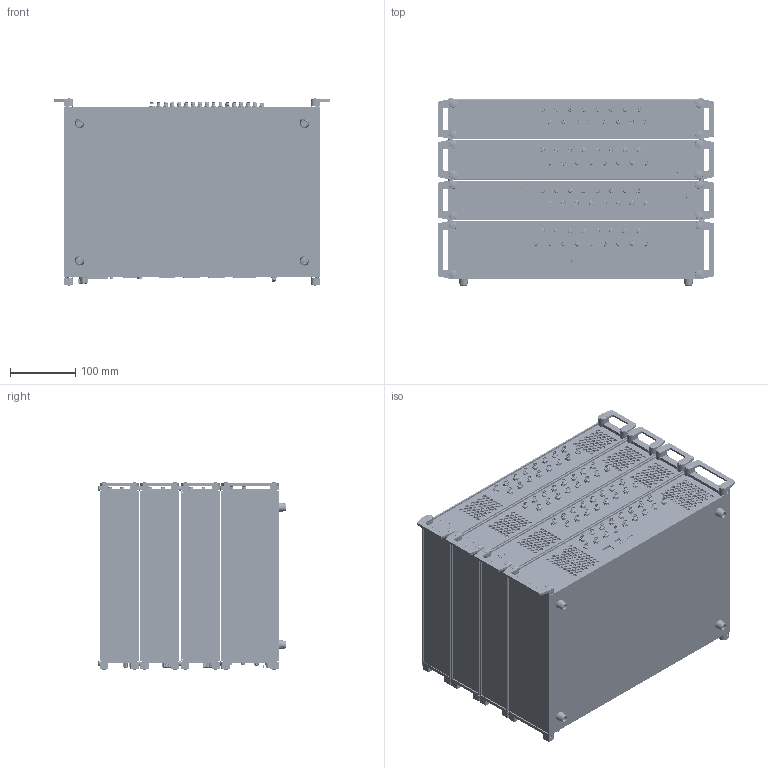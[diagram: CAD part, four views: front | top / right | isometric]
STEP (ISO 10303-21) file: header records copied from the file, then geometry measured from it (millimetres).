
FILE_DESCRIPTION (( 'STEP AP203' ), '1' );
FILE_NAME ('930049_PQ.077.6000.0016.12_MH160_M+X123.STEP', '2026-06-01T10:41:45', ( '' ), ( '' ), 'SwSTEP 2.0', 'SolidWorks 2025', '' );
FILE_SCHEMA (( 'CONFIG_CONTROL_DESIGN' ));
Products named in the file (1): 930049_PQ.077.6000.0016.12_MH160_M+X123
Bounding box: 422.5 x 286.75 x 286.3 mm (x, y, z)
Surface area: 1525820.4 mm2 (no closed solid volume)
Topology: 0 solids, 1743 shells, 20869 faces, 70622 edges, 50183 vertices
Faces by surface type: plane 11473, cylinder 6967, cone 1774, bspline 508, torus 103, sphere 44
Full cylindrical faces by diameter (mm): 0.38 x1, 0.981 x8, 1 x37, 1.3 x21, 1.5 x22, 1.6 x1, 2.05 x31, 2.2 x23, 2.261 x7, 2.5 x1, 2.6 x8, 2.65 x10, 2.89 x8, 3 x13, 3.2 x44, 3.245 x6, 3.275 x5, 3.4 x1, 3.6 x13, 3.7 x6, 3.8 x40, 3.86 x14, 4.3 x1, 4.5 x17, 4.61 x69, 4.71 x6, 4.8 x48, 5 x17, 5.2 x12, 5.35 x67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
Entity records: 765409 total; most frequent: CARTESIAN_POINT 176774, DIRECTION 122747, ORIENTED_EDGE 105141, EDGE_CURVE 67949, VERTEX_POINT 49419, LINE 41429, VECTOR 41429, AXIS2_PLACEMENT_3D 40659
